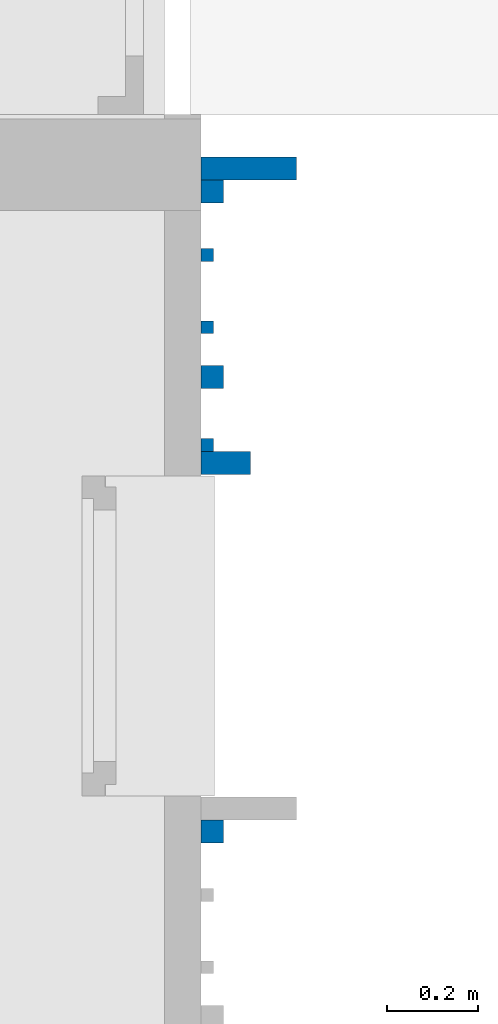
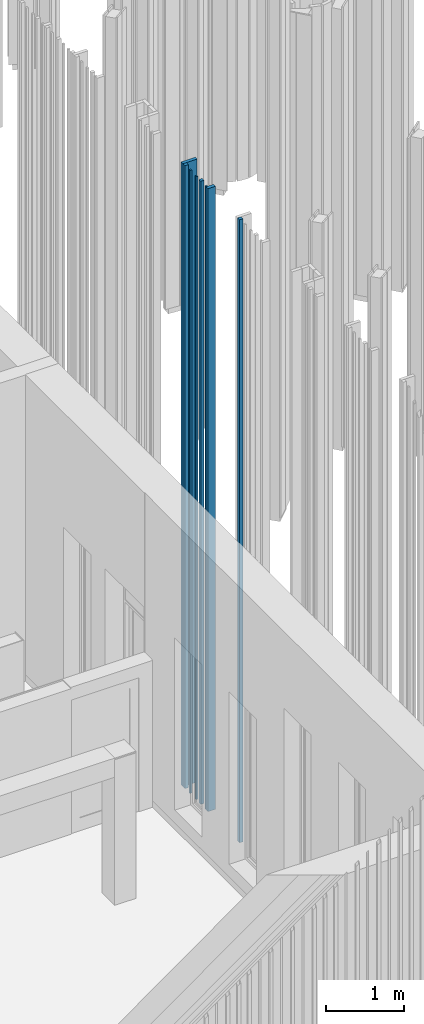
# One storey, part 183 of 390: 8 walls.
"""IFC2X3 building model written with IfcOpenShell, lengths in millimetres."""

from ifc_helpers import new_model, entity, si_unit, converted_unit, derived_unit, money_unit, direction, frame, origin_with_axes, place, context, subcontext, project, spatial, faceted_brep, material, type_object, element, save


model = new_model("IFC2X3")

# Units and contexts
model_context = context("Model", 3, precision=1e-05, world=origin_with_axes(), true_north=direction((0.0, 1.0)))
body_context = subcontext(model_context, "Body", "Model", "MODEL_VIEW")
ifc_project = project(units=[si_unit("LENGTHUNIT", "METRE", prefix="MILLI"), si_unit("AREAUNIT", "SQUARE_METRE"), si_unit("VOLUMEUNIT", "CUBIC_METRE"), converted_unit("PLANEANGLEUNIT", "DEGREE", entity("IfcPlaneAngleMeasure", 0.0174532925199), si_unit("PLANEANGLEUNIT", "RADIAN"), dimensions=[0, 0, 0, 0, 0, 0, 0]), si_unit("SOLIDANGLEUNIT", "STERADIAN"), money_unit("EUR"), converted_unit("TIMEUNIT", "Year", entity("IfcTimeMeasure", 31556926.0), si_unit("TIMEUNIT", "SECOND"), dimensions=[0, 0, 1, 0, 0, 0, 0]), si_unit("MASSUNIT", "GRAM", prefix="KILO"), si_unit("THERMODYNAMICTEMPERATUREUNIT", "DEGREE_CELSIUS"), si_unit("LUMINOUSINTENSITYUNIT", "LUMEN"), si_unit("ENERGYUNIT", "JOULE", prefix="MEGA"), derived_unit("THERMALCONDUCTANCEUNIT", [(si_unit("POWERUNIT", "WATT"), 1), (si_unit("LENGTHUNIT", "METRE"), -1), (si_unit("THERMODYNAMICTEMPERATUREUNIT", "KELVIN"), -1)]), derived_unit("SPECIFICHEATCAPACITYUNIT", [(si_unit("ENERGYUNIT", "JOULE"), 1), (si_unit("MASSUNIT", "GRAM", prefix="KILO"), -1), (si_unit("THERMODYNAMICTEMPERATUREUNIT", "KELVIN"), -1)]), derived_unit("MASSDENSITYUNIT", [(si_unit("MASSUNIT", "GRAM", prefix="KILO"), 1), (si_unit("VOLUMEUNIT", "CUBIC_METRE"), -1)])], contexts=[model_context])

# Site, building, storey
site_placement = place(None, origin_with_axes())
site = spatial("IfcSite", under=ifc_project, at=site_placement, Name="Site", CompositionType="ELEMENT")
building_placement = place(site_placement, origin_with_axes())
building = spatial("IfcBuilding", under=site, at=building_placement, Name="Building", CompositionType="ELEMENT")
storey_placement = place(building_placement, origin_with_axes())
storey = spatial("IfcBuildingStorey", under=building, at=storey_placement, Name="1 korrus", CompositionType="ELEMENT", Elevation=0.0)

# Walls
ifc_material = material(Name="Site specified")
wall_type = type_object("IfcWallType", Name="Puitfassaadi ribistik", PredefinedType="NOTDEFINED")
wall_1_placement = place(storey_placement, frame((139811.999998, 53721.8244713, 100.000000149), z_axis=(0.0, 0.0, 1.0), x_axis=(0.0, -1.0, 0.0)))
element("IfcWall", 1, at=wall_1_placement, inside=storey, type_object=wall_type, material=ifc_material, Name="Site specified", context=body_context, shape_type="Brep", body=[
    faceted_brep([(25.0, -25.0, 9764.99999985), (-25.0, -25.0, 9764.99999985), (-25.0, -25.0, 0.0), (25.0, -25.0, 0.0), (25.0, 25.0, 9764.99999985), (-25.0, 25.0, 9764.99999985), (-25.0, 25.0, 0.0), (25.0, 25.0, 0.0)], [[[0, 1, 2, 3]], [[4, 5, 1, 0]], [[1, 5, 6, 2]], [[7, 3, 2, 6]], [[4, 0, 3, 7]], [[5, 4, 7, 6]]]),
])
for number, where, z_axis, x_axis, name in (
    (2, (139800.999998, 53424.8244713, 100.000000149), (0.0, 0.0, 1.0), (0.0, -1.0, 0.0), "Site specified"),
    (3, (139800.999998, 53166.8244713, 100.000000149), (0.0, 0.0, 1.0), (0.0, -1.0, 0.0), "Site specified"),
    (4, (139800.999998, 53582.8244713, 100.000000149), (0.0, 0.0, 1.0), (0.0, -1.0, 0.0), "Site specified"),
):
    element("IfcWall", number, at=place(storey_placement, frame(where, z_axis=z_axis, x_axis=x_axis)), inside=storey, type_object=wall_type, material=ifc_material, Name=name, context=body_context, shape_type="Brep", body=[
        faceted_brep([(-14.0, -14.0, 9764.99999985), (-14.0, -14.0, 0.0), (14.0, -14.0, 0.0), (14.0, -14.0, 9764.99999985), (-14.0, 14.0, 9764.99999985), (-14.0, 14.0, 0.0), (14.0, 14.0, 0.0), (14.0, 14.0, 9764.99999985)], [[[0, 1, 2, 3]], [[4, 5, 1, 0]], [[2, 1, 5, 6]], [[3, 2, 6, 7]], [[4, 0, 3, 7]], [[7, 6, 5, 4]]]),
    ])
for number, where, z_axis, x_axis, name in (
    (5, (139811.999998, 53315.8244713, 100.000000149), (0.0, 0.0, 1.0), (0.0, -1.0, 0.0), "Site specified"),
    (6, (139811.999998, 52321.8244708, 100.000000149), (0.0, 0.0, 1.0), (0.0, -1.0, 0.0), "Site specified"),
):
    element("IfcWall", number, at=place(storey_placement, frame(where, z_axis=z_axis, x_axis=x_axis)), inside=storey, type_object=wall_type, material=ifc_material, Name=name, context=body_context, shape_type="Brep", body=[
        faceted_brep([(-25.0, -25.0, 9764.99999985), (-25.0, -25.0, 0.0), (25.0, -25.0, 0.0), (25.0, -25.0, 9764.99999985), (-25.0, 25.0, 9764.99999985), (-25.0, 25.0, 0.0), (25.0, 25.0, 0.0), (25.0, 25.0, 9764.99999985)], [[[0, 1, 2, 3]], [[4, 5, 1, 0]], [[2, 1, 5, 6]], [[3, 2, 6, 7]], [[4, 0, 3, 7]], [[7, 6, 5, 4]]]),
    ])
wall_2_placement = place(storey_placement, frame((139891.499998, 53771.8244713, 100.000000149), z_axis=(0.0, 0.0, 1.0), x_axis=(0.0, -1.0, 0.0)))
element("IfcWall", 7, at=wall_2_placement, inside=storey, type_object=wall_type, material=ifc_material, Name="Site specified", context=body_context, shape_type="Brep", body=[
    faceted_brep([(25.0, -104.5, 9764.99999985), (-25.0, -104.5, 9764.99999985), (-25.0, -104.5, 0.0), (25.0, -104.5, 0.0), (25.0, 104.5, 9764.99999985), (-25.0, 104.5, 9764.99999985), (-25.0, 104.5, 0.0), (25.0, 104.5, 0.0)], [[[0, 1, 2, 3]], [[4, 5, 1, 0]], [[1, 5, 6, 2]], [[7, 3, 2, 6]], [[4, 0, 3, 7]], [[5, 4, 7, 6]]]),
])
wall_3_placement = place(storey_placement, frame((139841.499998, 53127.8244713, 100.000000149), z_axis=(0.0, 0.0, 1.0), x_axis=(0.0, -1.0, 0.0)))
element("IfcWall", 8, at=wall_3_placement, inside=storey, type_object=wall_type, material=ifc_material, Name="Site specified", context=body_context, shape_type="Brep", body=[
    faceted_brep([(-25.0, -54.5, 9764.99999985), (-25.0, -54.5, 0.0), (25.0, -54.5, 0.0), (25.0, -54.5, 9764.99999985), (-25.0, 54.5, 9764.99999985), (-25.0, 54.5, 0.0), (25.0, 54.5, 0.0), (25.0, 54.5, 9764.99999985)], [[[0, 1, 2, 3]], [[4, 5, 1, 0]], [[2, 1, 5, 6]], [[3, 2, 6, 7]], [[4, 0, 3, 7]], [[7, 6, 5, 4]]]),
])

save(model, "model.ifc")
